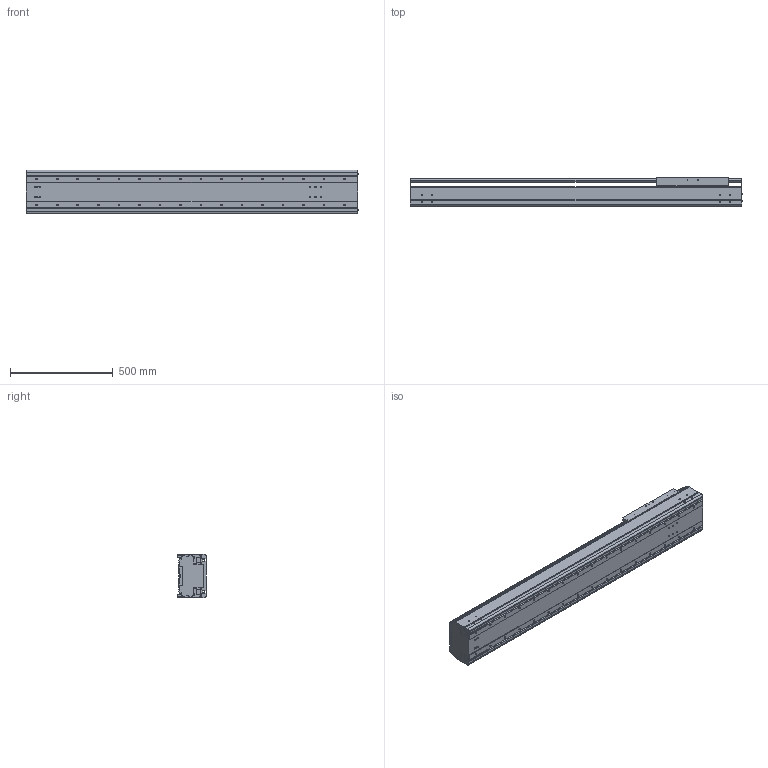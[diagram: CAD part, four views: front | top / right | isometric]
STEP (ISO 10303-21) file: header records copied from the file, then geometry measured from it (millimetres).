
FILE_DESCRIPTION((''),'2;1');
FILE_NAME('BE60G-ST-L_N-B5_IGS_PRT','2017-06-18T',(' '),(''),'PRO/ENGINEER BY PARAMETRIC TECHNOLOGY CORPORATION, 2015030','PRO/ENGINEER BY PARAMETRIC TECHNOLOGY CORPORATION, 2015030','');
FILE_SCHEMA(('CONFIG_CONTROL_DESIGN'));
Length unit declared in the file: millimetre
Products named in the file (1): BE60G-ST-L_N-B5_IGS_PRT
Bounding box: 1617.4 x 140 x 214 mm (x, y, z)
Volume: 13235857.7 mm3; surface area: 3479661.5 mm2
Topology: 2 solids, 156 shells, 1654 faces, 4622 edges, 3033 vertices
Faces by surface type: cylinder 856, plane 626, cone 124, sphere 24, torus 24
Entity records: 55250 total; most frequent: CARTESIAN_POINT 12610, DIRECTION 8960, ORIENTED_EDGE 8392, EDGE_CURVE 4500, AXIS2_PLACEMENT_3D 3353, VERTEX_POINT 3032, VECTOR 2254, LINE 2254
